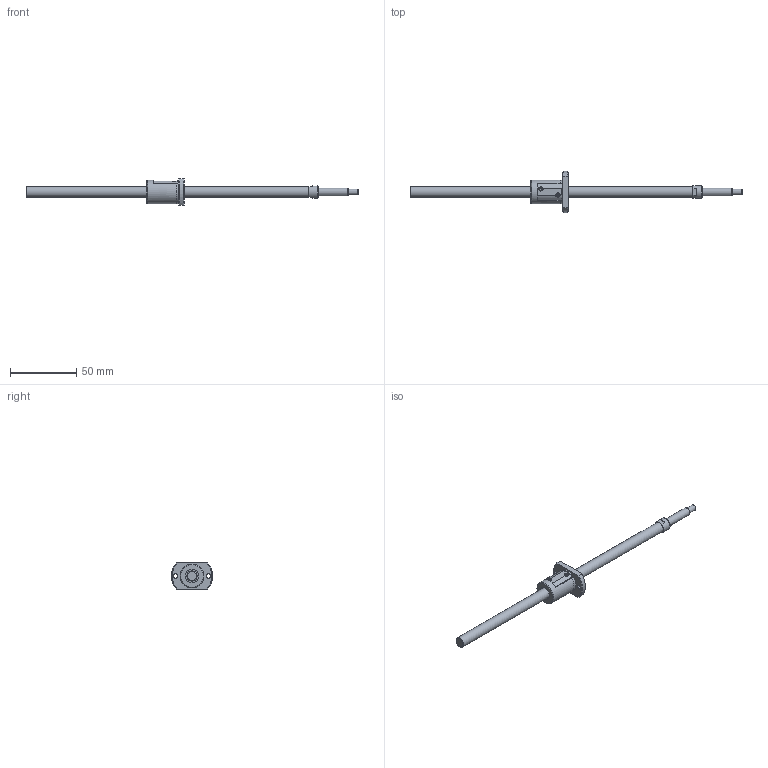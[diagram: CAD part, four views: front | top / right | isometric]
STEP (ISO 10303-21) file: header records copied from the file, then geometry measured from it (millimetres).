
FILE_DESCRIPTION( ( 'STEP AP214' ), '1' );
FILE_NAME( 'p:/temp/worker_8/1096_1344/app_76_12015063014084105819026260eae72_00_00_00_000/STEP/SG0805-209R250C3A1X_91__2_14.stp', ' ', ( ' ' ), ( ' ' ), 'PSStep 15.0.47', 'PARTsolutions', ' ' );
FILE_SCHEMA( ( 'AUTOMOTIVE_DESIGN { 1 0 10303 214 1 1 1 1 }' ) );
Length unit declared in the file: millimetre
Products named in the file (3): SG0805-209R250C3A1X(91); _SG0805-209R250C3A_shaft; _SG0805_nut
Assembly tree (2 placements, depth 2):
  SG0805-209R250C3A1X(91)
    _SG0805-209R250C3A_shaft
    _SG0805_nut
Bounding box: 250 x 30.91 x 20 mm (x, y, z)
Volume: 18622.7 mm3; surface area: 9741 mm2
Topology: 2 solids, 2 shells, 72 faces, 177 edges, 116 vertices
Faces by surface type: plane 35, cylinder 23, cone 13, torus 1
Full cylindrical faces by diameter (mm): 3.4 x2, 4.5 x1, 6 x1, 8 x2, 9.5 x1, 10 x2, 17.7 x1, 18 x1
Entity records: 2622 total; most frequent: CARTESIAN_POINT 397, DIRECTION 346, ORIENTED_EDGE 292, EDGE_CURVE 146, AXIS2_PLACEMENT_3D 143, EDGE_LOOP 106, VERTEX_POINT 106, FACE_OUTER_BOUND 84
